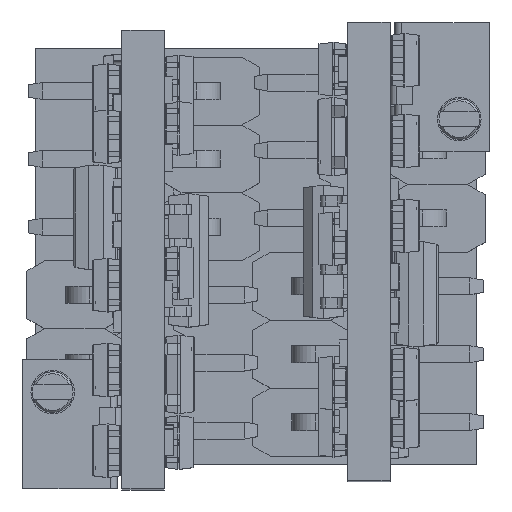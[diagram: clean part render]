
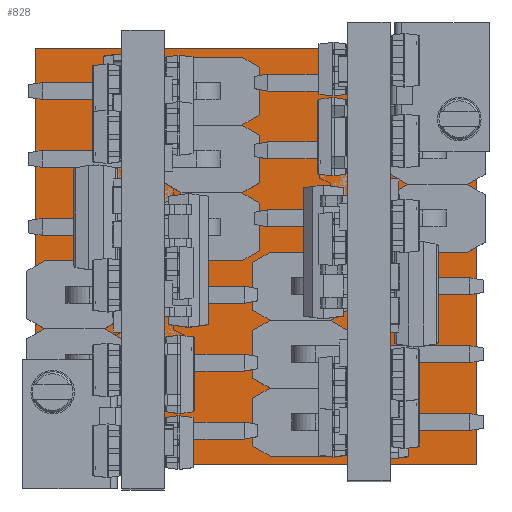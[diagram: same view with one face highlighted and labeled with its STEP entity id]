
A CAD part, top view. The second image highlights one B-rep face of the part: STEP entity #828.
In plain terms, the highlighted planar face has unit normal (0, 0, 1).
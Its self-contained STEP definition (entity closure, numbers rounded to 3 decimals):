
#49 = VERTEX_POINT('',#50);
#50 = CARTESIAN_POINT('',(16.51,15.558,0.));
#67 = VERTEX_POINT('',#68);
#68 = CARTESIAN_POINT('',(16.51,0.,0.));
#74 = EDGE_CURVE('',#49,#67,#75,.T.);
#75 = LINE('',#76,#77);
#76 = CARTESIAN_POINT('',(16.51,15.558,0.));
#77 = VECTOR('',#78,1.);
#78 = DIRECTION('',(0.,-1.,0.));
#98 = VERTEX_POINT('',#99);
#99 = CARTESIAN_POINT('',(0.,0.,0.));
#105 = EDGE_CURVE('',#67,#98,#106,.T.);
#106 = LINE('',#107,#108);
#107 = CARTESIAN_POINT('',(16.51,0.,0.));
#108 = VECTOR('',#109,1.);
#109 = DIRECTION('',(-1.,0.,0.));
#129 = VERTEX_POINT('',#130);
#130 = CARTESIAN_POINT('',(0.,15.558,0.));
#136 = EDGE_CURVE('',#98,#129,#137,.T.);
#137 = LINE('',#138,#139);
#138 = CARTESIAN_POINT('',(0.,0.,0.));
#139 = VECTOR('',#140,1.);
#140 = DIRECTION('',(0.,1.,0.));
#158 = EDGE_CURVE('',#129,#49,#159,.T.);
#159 = LINE('',#160,#161);
#160 = CARTESIAN_POINT('',(0.,15.558,0.));
#161 = VECTOR('',#162,1.);
#162 = DIRECTION('',(1.,0.,0.));
#173 = VERTEX_POINT('',#174);
#174 = CARTESIAN_POINT('',(4.894,11.584,0.));
#190 = EDGE_CURVE('',#173,#173,#191,.T.);
#191 = CIRCLE('',#192,0.6);
#192 = AXIS2_PLACEMENT_3D('',#193,#194,#195);
#193 = CARTESIAN_POINT('',(4.294,11.584,0.));
#194 = DIRECTION('',(0.,0.,-1.));
#195 = DIRECTION('',(1.,0.,0.));
#206 = VERTEX_POINT('',#207);
#207 = CARTESIAN_POINT('',(4.894,9.044,0.));
#223 = EDGE_CURVE('',#206,#206,#224,.T.);
#224 = CIRCLE('',#225,0.6);
#225 = AXIS2_PLACEMENT_3D('',#226,#227,#228);
#226 = CARTESIAN_POINT('',(4.294,9.044,0.));
#227 = DIRECTION('',(0.,0.,-1.));
#228 = DIRECTION('',(1.,0.,0.));
#239 = VERTEX_POINT('',#240);
#240 = CARTESIAN_POINT('',(4.894,6.504,0.));
#256 = EDGE_CURVE('',#239,#239,#257,.T.);
#257 = CIRCLE('',#258,0.6);
#258 = AXIS2_PLACEMENT_3D('',#259,#260,#261);
#259 = CARTESIAN_POINT('',(4.294,6.504,0.));
#260 = DIRECTION('',(0.,0.,-1.));
#261 = DIRECTION('',(1.,0.,0.));
#272 = VERTEX_POINT('',#273);
#273 = CARTESIAN_POINT('',(4.894,3.964,0.));
#289 = EDGE_CURVE('',#272,#272,#290,.T.);
#290 = CIRCLE('',#291,0.6);
#291 = AXIS2_PLACEMENT_3D('',#292,#293,#294);
#292 = CARTESIAN_POINT('',(4.294,3.964,0.));
#293 = DIRECTION('',(0.,0.,-1.));
#294 = DIRECTION('',(1.,0.,0.));
#305 = VERTEX_POINT('',#306);
#306 = CARTESIAN_POINT('',(12.514,11.584,0.));
#322 = EDGE_CURVE('',#305,#305,#323,.T.);
#323 = CIRCLE('',#324,0.6);
#324 = AXIS2_PLACEMENT_3D('',#325,#326,#327);
#325 = CARTESIAN_POINT('',(11.914,11.584,0.));
#326 = DIRECTION('',(0.,0.,-1.));
#327 = DIRECTION('',(1.,0.,0.));
#338 = VERTEX_POINT('',#339);
#339 = CARTESIAN_POINT('',(12.514,9.044,0.));
#355 = EDGE_CURVE('',#338,#338,#356,.T.);
#356 = CIRCLE('',#357,0.6);
#357 = AXIS2_PLACEMENT_3D('',#358,#359,#360);
#358 = CARTESIAN_POINT('',(11.914,9.044,0.));
#359 = DIRECTION('',(0.,0.,-1.));
#360 = DIRECTION('',(1.,0.,0.));
#371 = VERTEX_POINT('',#372);
#372 = CARTESIAN_POINT('',(12.514,6.504,0.));
#388 = EDGE_CURVE('',#371,#371,#389,.T.);
#389 = CIRCLE('',#390,0.6);
#390 = AXIS2_PLACEMENT_3D('',#391,#392,#393);
#391 = CARTESIAN_POINT('',(11.914,6.504,0.));
#392 = DIRECTION('',(0.,0.,-1.));
#393 = DIRECTION('',(1.,0.,0.));
#404 = VERTEX_POINT('',#405);
#405 = CARTESIAN_POINT('',(12.514,3.964,0.));
#421 = EDGE_CURVE('',#404,#404,#422,.T.);
#422 = CIRCLE('',#423,0.6);
#423 = AXIS2_PLACEMENT_3D('',#424,#425,#426);
#424 = CARTESIAN_POINT('',(11.914,3.964,0.));
#425 = DIRECTION('',(0.,0.,-1.));
#426 = DIRECTION('',(1.,0.,0.));
#437 = VERTEX_POINT('',#438);
#438 = CARTESIAN_POINT('',(2.137,1.429,0.));
#454 = EDGE_CURVE('',#437,#437,#455,.T.);
#455 = CIRCLE('',#456,0.55);
#456 = AXIS2_PLACEMENT_3D('',#457,#458,#459);
#457 = CARTESIAN_POINT('',(1.587,1.429,0.));
#458 = DIRECTION('',(0.,0.,-1.));
#459 = DIRECTION('',(1.,0.,0.));
#470 = VERTEX_POINT('',#471);
#471 = CARTESIAN_POINT('',(2.137,3.969,0.));
#487 = EDGE_CURVE('',#470,#470,#488,.T.);
#488 = CIRCLE('',#489,0.55);
#489 = AXIS2_PLACEMENT_3D('',#490,#491,#492);
#490 = CARTESIAN_POINT('',(1.587,3.969,0.));
#491 = DIRECTION('',(0.,0.,-1.));
#492 = DIRECTION('',(1.,0.,0.));
#503 = VERTEX_POINT('',#504);
#504 = CARTESIAN_POINT('',(2.137,6.509,0.));
#520 = EDGE_CURVE('',#503,#503,#521,.T.);
#521 = CIRCLE('',#522,0.55);
#522 = AXIS2_PLACEMENT_3D('',#523,#524,#525);
#523 = CARTESIAN_POINT('',(1.587,6.509,0.));
#524 = DIRECTION('',(0.,0.,-1.));
#525 = DIRECTION('',(1.,0.,0.));
#536 = VERTEX_POINT('',#537);
#537 = CARTESIAN_POINT('',(7.217,14.129,0.));
#553 = EDGE_CURVE('',#536,#536,#554,.T.);
#554 = CIRCLE('',#555,0.55);
#555 = AXIS2_PLACEMENT_3D('',#556,#557,#558);
#556 = CARTESIAN_POINT('',(6.667,14.129,0.));
#557 = DIRECTION('',(0.,0.,-1.));
#558 = DIRECTION('',(1.,0.,0.));
#569 = VERTEX_POINT('',#570);
#570 = CARTESIAN_POINT('',(7.217,11.589,0.));
#586 = EDGE_CURVE('',#569,#569,#587,.T.);
#587 = CIRCLE('',#588,0.55);
#588 = AXIS2_PLACEMENT_3D('',#589,#590,#591);
#589 = CARTESIAN_POINT('',(6.667,11.589,0.));
#590 = DIRECTION('',(0.,0.,-1.));
#591 = DIRECTION('',(1.,0.,0.));
#602 = VERTEX_POINT('',#603);
#603 = CARTESIAN_POINT('',(7.217,9.049,0.));
#619 = EDGE_CURVE('',#602,#602,#620,.T.);
#620 = CIRCLE('',#621,0.55);
#621 = AXIS2_PLACEMENT_3D('',#622,#623,#624);
#622 = CARTESIAN_POINT('',(6.667,9.049,0.));
#623 = DIRECTION('',(0.,0.,-1.));
#624 = DIRECTION('',(1.,0.,0.));
#635 = VERTEX_POINT('',#636);
#636 = CARTESIAN_POINT('',(15.473,14.129,0.));
#652 = EDGE_CURVE('',#635,#635,#653,.T.);
#653 = CIRCLE('',#654,0.55);
#654 = AXIS2_PLACEMENT_3D('',#655,#656,#657);
#655 = CARTESIAN_POINT('',(14.923,14.129,0.));
#656 = DIRECTION('',(0.,0.,-1.));
#657 = DIRECTION('',(1.,0.,0.));
#668 = VERTEX_POINT('',#669);
#669 = CARTESIAN_POINT('',(15.473,11.589,0.));
#685 = EDGE_CURVE('',#668,#668,#686,.T.);
#686 = CIRCLE('',#687,0.55);
#687 = AXIS2_PLACEMENT_3D('',#688,#689,#690);
#688 = CARTESIAN_POINT('',(14.923,11.589,0.));
#689 = DIRECTION('',(0.,0.,-1.));
#690 = DIRECTION('',(1.,0.,0.));
#701 = VERTEX_POINT('',#702);
#702 = CARTESIAN_POINT('',(15.473,9.049,0.));
#718 = EDGE_CURVE('',#701,#701,#719,.T.);
#719 = CIRCLE('',#720,0.55);
#720 = AXIS2_PLACEMENT_3D('',#721,#722,#723);
#721 = CARTESIAN_POINT('',(14.923,9.049,0.));
#722 = DIRECTION('',(0.,0.,-1.));
#723 = DIRECTION('',(1.,0.,0.));
#734 = VERTEX_POINT('',#735);
#735 = CARTESIAN_POINT('',(10.393,1.429,0.));
#751 = EDGE_CURVE('',#734,#734,#752,.T.);
#752 = CIRCLE('',#753,0.55);
#753 = AXIS2_PLACEMENT_3D('',#754,#755,#756);
#754 = CARTESIAN_POINT('',(9.843,1.429,0.));
#755 = DIRECTION('',(0.,0.,-1.));
#756 = DIRECTION('',(1.,0.,0.));
#767 = VERTEX_POINT('',#768);
#768 = CARTESIAN_POINT('',(10.393,3.969,0.));
#784 = EDGE_CURVE('',#767,#767,#785,.T.);
#785 = CIRCLE('',#786,0.55);
#786 = AXIS2_PLACEMENT_3D('',#787,#788,#789);
#787 = CARTESIAN_POINT('',(9.843,3.969,0.));
#788 = DIRECTION('',(0.,0.,-1.));
#789 = DIRECTION('',(1.,0.,0.));
#800 = VERTEX_POINT('',#801);
#801 = CARTESIAN_POINT('',(10.393,6.509,0.));
#817 = EDGE_CURVE('',#800,#800,#818,.T.);
#818 = CIRCLE('',#819,0.55);
#819 = AXIS2_PLACEMENT_3D('',#820,#821,#822);
#820 = CARTESIAN_POINT('',(9.843,6.509,0.));
#821 = DIRECTION('',(0.,0.,-1.));
#822 = DIRECTION('',(1.,0.,0.));
#828 = ADVANCED_FACE('',(#829,#835,#838,#841,#844,#847,#850,#853,#856,
    #859,#862,#865,#868,#871,#874,#877,#880,#883,#886,#889,#892),#895,
  .T.);
#829 = FACE_BOUND('',#830,.F.);
#830 = EDGE_LOOP('',(#831,#832,#833,#834));
#831 = ORIENTED_EDGE('',*,*,#74,.T.);
#832 = ORIENTED_EDGE('',*,*,#105,.T.);
#833 = ORIENTED_EDGE('',*,*,#136,.T.);
#834 = ORIENTED_EDGE('',*,*,#158,.T.);
#835 = FACE_BOUND('',#836,.F.);
#836 = EDGE_LOOP('',(#837));
#837 = ORIENTED_EDGE('',*,*,#190,.T.);
#838 = FACE_BOUND('',#839,.F.);
#839 = EDGE_LOOP('',(#840));
#840 = ORIENTED_EDGE('',*,*,#223,.T.);
#841 = FACE_BOUND('',#842,.F.);
#842 = EDGE_LOOP('',(#843));
#843 = ORIENTED_EDGE('',*,*,#256,.T.);
#844 = FACE_BOUND('',#845,.F.);
#845 = EDGE_LOOP('',(#846));
#846 = ORIENTED_EDGE('',*,*,#289,.T.);
#847 = FACE_BOUND('',#848,.F.);
#848 = EDGE_LOOP('',(#849));
#849 = ORIENTED_EDGE('',*,*,#322,.T.);
#850 = FACE_BOUND('',#851,.F.);
#851 = EDGE_LOOP('',(#852));
#852 = ORIENTED_EDGE('',*,*,#355,.T.);
#853 = FACE_BOUND('',#854,.F.);
#854 = EDGE_LOOP('',(#855));
#855 = ORIENTED_EDGE('',*,*,#388,.T.);
#856 = FACE_BOUND('',#857,.F.);
#857 = EDGE_LOOP('',(#858));
#858 = ORIENTED_EDGE('',*,*,#421,.T.);
#859 = FACE_BOUND('',#860,.F.);
#860 = EDGE_LOOP('',(#861));
#861 = ORIENTED_EDGE('',*,*,#454,.T.);
#862 = FACE_BOUND('',#863,.F.);
#863 = EDGE_LOOP('',(#864));
#864 = ORIENTED_EDGE('',*,*,#487,.T.);
#865 = FACE_BOUND('',#866,.F.);
#866 = EDGE_LOOP('',(#867));
#867 = ORIENTED_EDGE('',*,*,#520,.T.);
#868 = FACE_BOUND('',#869,.F.);
#869 = EDGE_LOOP('',(#870));
#870 = ORIENTED_EDGE('',*,*,#553,.T.);
#871 = FACE_BOUND('',#872,.F.);
#872 = EDGE_LOOP('',(#873));
#873 = ORIENTED_EDGE('',*,*,#586,.T.);
#874 = FACE_BOUND('',#875,.F.);
#875 = EDGE_LOOP('',(#876));
#876 = ORIENTED_EDGE('',*,*,#619,.T.);
#877 = FACE_BOUND('',#878,.F.);
#878 = EDGE_LOOP('',(#879));
#879 = ORIENTED_EDGE('',*,*,#652,.T.);
#880 = FACE_BOUND('',#881,.F.);
#881 = EDGE_LOOP('',(#882));
#882 = ORIENTED_EDGE('',*,*,#685,.T.);
#883 = FACE_BOUND('',#884,.F.);
#884 = EDGE_LOOP('',(#885));
#885 = ORIENTED_EDGE('',*,*,#718,.T.);
#886 = FACE_BOUND('',#887,.F.);
#887 = EDGE_LOOP('',(#888));
#888 = ORIENTED_EDGE('',*,*,#751,.T.);
#889 = FACE_BOUND('',#890,.F.);
#890 = EDGE_LOOP('',(#891));
#891 = ORIENTED_EDGE('',*,*,#784,.T.);
#892 = FACE_BOUND('',#893,.F.);
#893 = EDGE_LOOP('',(#894));
#894 = ORIENTED_EDGE('',*,*,#817,.T.);
#895 = PLANE('',#896);
#896 = AXIS2_PLACEMENT_3D('',#897,#898,#899);
#897 = CARTESIAN_POINT('',(16.51,15.558,0.));
#898 = DIRECTION('',(0.,0.,1.));
#899 = DIRECTION('',(1.,0.,0.));
